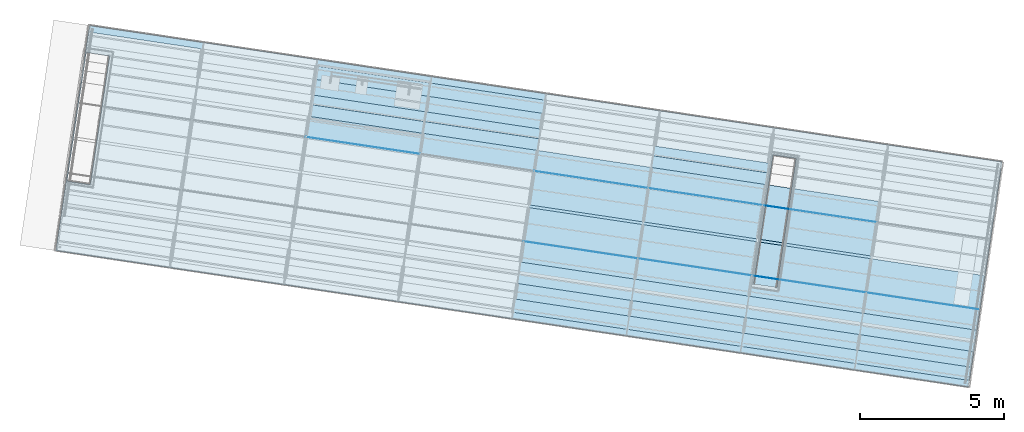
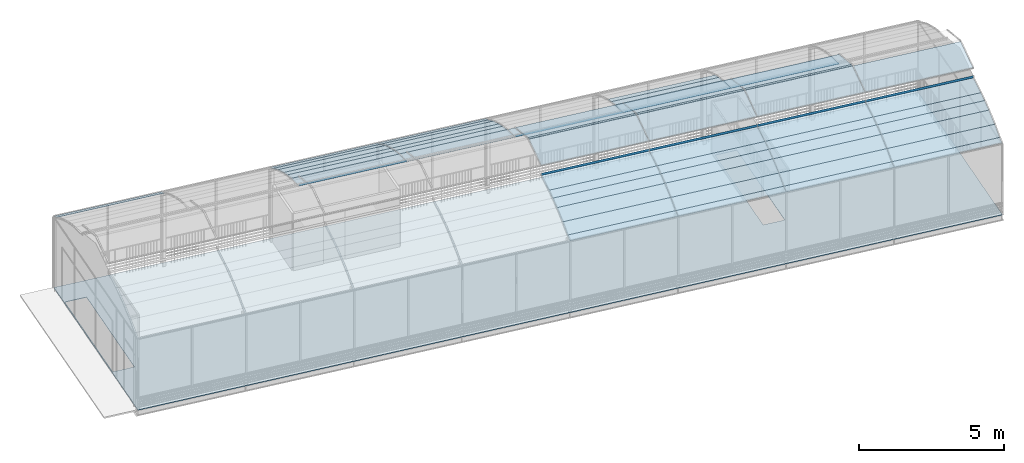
# One storey, part 26 of 34: 60 plates, 1 slab, 2 openings, 1 element without a shape of its own.
"""IFC4 building model written with IfcOpenShell, lengths in metres."""

from ifc_helpers import new_model, si_unit, direction, frame, origin_with_axes, place, context, subcontext, project, spatial, polyline, outline, extrude, material, element, aggregate, save


model = new_model("IFC4")

# Units and contexts
model_context = context("Model", 3, precision=1e-05, world=origin_with_axes(), true_north=direction((0.0, 1.0)))
body_context = subcontext(model_context, "Body", "Model", "MODEL_VIEW")
ifc_project = project(units=[si_unit("VOLUMEUNIT", "CUBIC_METRE"), si_unit("LENGTHUNIT", "METRE"), si_unit("AREAUNIT", "SQUARE_METRE")], contexts=[model_context])

# Site, building, storey
site_placement = place(None, origin_with_axes())
site = spatial("IfcSite", under=ifc_project, at=site_placement, Name="Lares · Rua das Mercês · artigo 4771")
building_placement = place(site_placement, frame((12.0, 10.2, 13.9), z_axis=(0.0, 0.0, 1.0), x_axis=(0.989015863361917, -0.147809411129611, 0.0)))
building = spatial("IfcBuilding", under=site, at=building_placement, Name="Casa Sobreposta")
storey_placement = place(building_placement, frame((0.0, 0.0, 3.24), z_axis=(0.0, 0.0, 1.0), x_axis=(1.0, 0.0, 0.0)))
storey = spatial("IfcBuildingStorey", under=building, at=storey_placement, Name="01 · Jardim de inverno", Elevation=17.14)

# Slab, openings
ifc_material_1 = material(Name="OSB", Category="wood")
slab_placement = place(storey_placement, frame((0.0, 0.0, -0.032), z_axis=(0.0, 0.0, 1.0), x_axis=(1.0, 0.0, 0.0)))
slab = element("IfcSlab", 1, at=slab_placement, inside=storey, material=ifc_material_1, Name="OSB estrutural · 20 mm", PredefinedType="FLOOR", context=body_context, shape_type="SweptSolid", body=[
    extrude(outline(polyline([(32.0, -1.5), (32.0, 6.4), (0.0, 6.4), (0.0, -1.5), (32.0, -1.5)])), origin_with_axes(), (0.0, 0.0, 1.0), 0.02),
])
opening_1_placement = place(slab_placement, frame((0.0, 0.0, -0.00999999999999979), z_axis=(0.0, 0.0, 1.0), x_axis=(1.0, 0.0, 0.0)))
element("IfcOpeningElement", 2, at=opening_1_placement, cuts=slab, Name="Vão de escada 1 · OSB estrutural · 20 mm", PredefinedType="OPENING", context=body_context, shape_type="SweptSolid", body=[
    extrude(outline(polyline([(0.04, 0.9475), (0.84, 0.9475), (0.84, 5.4525), (0.04, 5.4525), (0.04, 0.9475)])), origin_with_axes(), (0.0, 0.0, 1.0), 0.04),
])
opening_2_placement = place(slab_placement, frame((0.0, 0.0, -0.00999999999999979), z_axis=(0.0, 0.0, 1.0), x_axis=(1.0, 0.0, 0.0)))
element("IfcOpeningElement", 3, at=opening_2_placement, cuts=slab, Name="Vão de escada 2 · OSB estrutural · 20 mm", PredefinedType="OPENING", context=body_context, shape_type="SweptSolid", body=[
    extrude(outline(polyline([(24.91, 0.9475), (24.91, 5.4525), (24.11, 5.4525), (24.11, 0.9475), (24.91, 0.9475)])), origin_with_axes(), (0.0, 0.0, 1.0), 0.04),
])

# Roof, plates
ifc_material_2 = material(Name="Vidro / Normalglas", Category="glass")
roof_placement = place(storey_placement, frame((0.0, 0.0, -3.24), z_axis=(0.0, 0.0, 1.0), x_axis=(1.0, 0.0, 0.0)))
roof = element("IfcRoof", 4, at=roof_placement, inside=storey, material=ifc_material_2, Name="Cobertura translúcida da estufa", PredefinedType="BARREL_ROOF")
plate_1_placement = place(roof_placement, frame((16.0, 0.0, 0.0), z_axis=(1.0, 0.0, 0.0), x_axis=(0.0, 1.0, 0.0)))
plate_1 = element("IfcPlate", 5, at=plate_1_placement, material=ifc_material_2, Name="Cobertura 5.1", PredefinedType="SHEET", context=body_context, shape_type="SweptSolid", body=[
    extrude(outline(polyline([(-1.5, 6.23430000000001), (-1.26765509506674, 6.32392631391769), (-1.26765509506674, 6.31592631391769), (-1.5, 6.22630000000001), (-1.5, 6.23430000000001)])), origin_with_axes(), (0.0, 0.0, 1.0), 4.0),
])
plate_2_placement = place(roof_placement, frame((20.0, 0.0, 0.0), z_axis=(1.0, 0.0, 0.0), x_axis=(0.0, 1.0, 0.0)))
plate_2 = element("IfcPlate", 6, at=plate_2_placement, material=ifc_material_2, Name="Cobertura 6.1", PredefinedType="SHEET", context=body_context, shape_type="SweptSolid", body=[
    extrude(outline(polyline([(-1.5, 6.23430000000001), (-1.26765509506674, 6.32392631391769), (-1.26765509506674, 6.31592631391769), (-1.5, 6.22630000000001), (-1.5, 6.23430000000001)])), origin_with_axes(), (0.0, 0.0, 1.0), 4.0),
])
plate_3_placement = place(roof_placement, frame((24.0, 0.0, 0.0), z_axis=(1.0, 0.0, 0.0), x_axis=(0.0, 1.0, 0.0)))
plate_3 = element("IfcPlate", 7, at=plate_3_placement, material=ifc_material_2, Name="Cobertura 7.1", PredefinedType="SHEET", context=body_context, shape_type="SweptSolid", body=[
    extrude(outline(polyline([(-1.5, 6.23430000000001), (-1.26765509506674, 6.32392631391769), (-1.26765509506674, 6.31592631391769), (-1.5, 6.22630000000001), (-1.5, 6.23430000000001)])), origin_with_axes(), (0.0, 0.0, 1.0), 4.0),
])
plate_4_placement = place(roof_placement, frame((28.0, 0.0, 0.0), z_axis=(1.0, 0.0, 0.0), x_axis=(0.0, 1.0, 0.0)))
plate_4 = element("IfcPlate", 8, at=plate_4_placement, material=ifc_material_2, Name="Cobertura 8.1", PredefinedType="SHEET", context=body_context, shape_type="SweptSolid", body=[
    extrude(outline(polyline([(-1.5, 6.23430000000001), (-1.26765509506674, 6.32392631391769), (-1.26765509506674, 6.31592631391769), (-1.5, 6.22630000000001), (-1.5, 6.23430000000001)])), origin_with_axes(), (0.0, 0.0, 1.0), 4.0),
])
plate_5_placement = place(roof_placement, frame((16.0, 0.0, 0.0), z_axis=(1.0, 0.0, 0.0), x_axis=(0.0, 1.0, 0.0)))
plate_5 = element("IfcPlate", 9, at=plate_5_placement, material=ifc_material_2, Name="Cobertura 5.2", PredefinedType="SHEET", context=body_context, shape_type="SweptSolid", body=[
    extrude(outline(polyline([(-1.26765509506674, 6.32392631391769), (-0.803062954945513, 6.57613537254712), (-0.803062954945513, 6.56813537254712), (-1.26765509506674, 6.31592631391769), (-1.26765509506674, 6.32392631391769)])), origin_with_axes(), (0.0, 0.0, 1.0), 4.0),
])
plate_6_placement = place(roof_placement, frame((20.0, 0.0, 0.0), z_axis=(1.0, 0.0, 0.0), x_axis=(0.0, 1.0, 0.0)))
plate_6 = element("IfcPlate", 10, at=plate_6_placement, material=ifc_material_2, Name="Cobertura 6.2", PredefinedType="SHEET", context=body_context, shape_type="SweptSolid", body=[
    extrude(outline(polyline([(-1.26765509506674, 6.32392631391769), (-0.803062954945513, 6.57613537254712), (-0.803062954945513, 6.56813537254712), (-1.26765509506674, 6.31592631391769), (-1.26765509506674, 6.32392631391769)])), origin_with_axes(), (0.0, 0.0, 1.0), 4.0),
])
plate_7_placement = place(roof_placement, frame((24.0, 0.0, 0.0), z_axis=(1.0, 0.0, 0.0), x_axis=(0.0, 1.0, 0.0)))
plate_7 = element("IfcPlate", 11, at=plate_7_placement, material=ifc_material_2, Name="Cobertura 7.2", PredefinedType="SHEET", context=body_context, shape_type="SweptSolid", body=[
    extrude(outline(polyline([(-1.26765509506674, 6.32392631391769), (-0.803062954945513, 6.57613537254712), (-0.803062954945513, 6.56813537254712), (-1.26765509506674, 6.31592631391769), (-1.26765509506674, 6.32392631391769)])), origin_with_axes(), (0.0, 0.0, 1.0), 4.0),
])
plate_8_placement = place(roof_placement, frame((28.0, 0.0, 0.0), z_axis=(1.0, 0.0, 0.0), x_axis=(0.0, 1.0, 0.0)))
plate_8 = element("IfcPlate", 12, at=plate_8_placement, material=ifc_material_2, Name="Cobertura 8.2", PredefinedType="SHEET", context=body_context, shape_type="SweptSolid", body=[
    extrude(outline(polyline([(-1.26765509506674, 6.32392631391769), (-0.803062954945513, 6.57613537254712), (-0.803062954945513, 6.56813537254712), (-1.26765509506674, 6.31592631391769), (-1.26765509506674, 6.32392631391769)])), origin_with_axes(), (0.0, 0.0, 1.0), 4.0),
])
plate_9_placement = place(roof_placement, frame((16.0, 0.0, 0.0), z_axis=(1.0, 0.0, 0.0), x_axis=(0.0, 1.0, 0.0)))
plate_9 = element("IfcPlate", 13, at=plate_9_placement, material=ifc_material_2, Name="Cobertura 5.3", PredefinedType="SHEET", context=body_context, shape_type="SweptSolid", body=[
    extrude(outline(polyline([(-0.803062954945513, 6.57613537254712), (-0.256488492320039, 6.81570306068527), (-0.256488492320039, 6.80770306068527), (-0.803062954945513, 6.56813537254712), (-0.803062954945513, 6.57613537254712)])), origin_with_axes(), (0.0, 0.0, 1.0), 4.0),
])
plate_10_placement = place(roof_placement, frame((20.0, 0.0, 0.0), z_axis=(1.0, 0.0, 0.0), x_axis=(0.0, 1.0, 0.0)))
plate_10 = element("IfcPlate", 14, at=plate_10_placement, material=ifc_material_2, Name="Cobertura 6.3", PredefinedType="SHEET", context=body_context, shape_type="SweptSolid", body=[
    extrude(outline(polyline([(-0.803062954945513, 6.57613537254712), (-0.256488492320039, 6.81570306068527), (-0.256488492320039, 6.80770306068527), (-0.803062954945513, 6.56813537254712), (-0.803062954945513, 6.57613537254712)])), origin_with_axes(), (0.0, 0.0, 1.0), 4.0),
])
plate_11_placement = place(roof_placement, frame((24.0, 0.0, 0.0), z_axis=(1.0, 0.0, 0.0), x_axis=(0.0, 1.0, 0.0)))
plate_11 = element("IfcPlate", 15, at=plate_11_placement, material=ifc_material_2, Name="Cobertura 7.3", PredefinedType="SHEET", context=body_context, shape_type="SweptSolid", body=[
    extrude(outline(polyline([(-0.803062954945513, 6.57613537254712), (-0.256488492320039, 6.81570306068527), (-0.256488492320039, 6.80770306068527), (-0.803062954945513, 6.56813537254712), (-0.803062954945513, 6.57613537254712)])), origin_with_axes(), (0.0, 0.0, 1.0), 4.0),
])
plate_12_placement = place(roof_placement, frame((28.0, 0.0, 0.0), z_axis=(1.0, 0.0, 0.0), x_axis=(0.0, 1.0, 0.0)))
plate_12 = element("IfcPlate", 16, at=plate_12_placement, material=ifc_material_2, Name="Cobertura 8.3", PredefinedType="SHEET", context=body_context, shape_type="SweptSolid", body=[
    extrude(outline(polyline([(-0.803062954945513, 6.57613537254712), (-0.256488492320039, 6.81570306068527), (-0.256488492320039, 6.80770306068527), (-0.803062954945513, 6.56813537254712), (-0.803062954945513, 6.57613537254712)])), origin_with_axes(), (0.0, 0.0, 1.0), 4.0),
])
plate_13_placement = place(roof_placement, frame((16.0, 0.0, 0.0), z_axis=(1.0, 0.0, 0.0), x_axis=(0.0, 1.0, 0.0)))
plate_13 = element("IfcPlate", 17, at=plate_13_placement, material=ifc_material_2, Name="Cobertura 5.4", PredefinedType="SHEET", context=body_context, shape_type="SweptSolid", body=[
    extrude(outline(polyline([(-0.256488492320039, 6.81570306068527), (0.142348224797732, 6.95669813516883), (0.142348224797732, 6.94869813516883), (-0.256488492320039, 6.80770306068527), (-0.256488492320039, 6.81570306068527)])), origin_with_axes(), (0.0, 0.0, 1.0), 4.0),
])
plate_14_placement = place(roof_placement, frame((20.0, 0.0, 0.0), z_axis=(1.0, 0.0, 0.0), x_axis=(0.0, 1.0, 0.0)))
plate_14 = element("IfcPlate", 18, at=plate_14_placement, material=ifc_material_2, Name="Cobertura 6.4", PredefinedType="SHEET", context=body_context, shape_type="SweptSolid", body=[
    extrude(outline(polyline([(-0.256488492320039, 6.81570306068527), (0.142348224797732, 6.95669813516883), (0.142348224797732, 6.94869813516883), (-0.256488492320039, 6.80770306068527), (-0.256488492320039, 6.81570306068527)])), origin_with_axes(), (0.0, 0.0, 1.0), 4.0),
])
plate_15_placement = place(roof_placement, frame((24.0, 0.0, 0.0), z_axis=(1.0, 0.0, 0.0), x_axis=(0.0, 1.0, 0.0)))
plate_15 = element("IfcPlate", 19, at=plate_15_placement, material=ifc_material_2, Name="Cobertura 7.4", PredefinedType="SHEET", context=body_context, shape_type="SweptSolid", body=[
    extrude(outline(polyline([(-0.256488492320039, 6.81570306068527), (0.142348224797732, 6.95669813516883), (0.142348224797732, 6.94869813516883), (-0.256488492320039, 6.80770306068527), (-0.256488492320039, 6.81570306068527)])), origin_with_axes(), (0.0, 0.0, 1.0), 4.0),
])
plate_16_placement = place(roof_placement, frame((28.0, 0.0, 0.0), z_axis=(1.0, 0.0, 0.0), x_axis=(0.0, 1.0, 0.0)))
plate_16 = element("IfcPlate", 20, at=plate_16_placement, material=ifc_material_2, Name="Cobertura 8.4", PredefinedType="SHEET", context=body_context, shape_type="SweptSolid", body=[
    extrude(outline(polyline([(-0.256488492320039, 6.81570306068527), (0.142348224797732, 6.95669813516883), (0.142348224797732, 6.94869813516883), (-0.256488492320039, 6.80770306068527), (-0.256488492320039, 6.81570306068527)])), origin_with_axes(), (0.0, 0.0, 1.0), 4.0),
])
plate_17_placement = place(roof_placement, frame((16.0, 0.0, 0.0), z_axis=(1.0, 0.0, 0.0), x_axis=(0.0, 1.0, 0.0)))
plate_17 = element("IfcPlate", 21, at=plate_17_placement, material=ifc_material_2, Name="Cobertura 5.5", PredefinedType="SHEET", context=body_context, shape_type="SweptSolid", body=[
    extrude(outline(polyline([(0.142348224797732, 6.95669813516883), (0.493171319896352, 7.05943931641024), (0.493171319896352, 7.05143931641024), (0.142348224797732, 6.94869813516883), (0.142348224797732, 6.95669813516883)])), origin_with_axes(), (0.0, 0.0, 1.0), 4.0),
])
plate_18_placement = place(roof_placement, frame((20.0, 0.0, 0.0), z_axis=(1.0, 0.0, 0.0), x_axis=(0.0, 1.0, 0.0)))
plate_18 = element("IfcPlate", 22, at=plate_18_placement, material=ifc_material_2, Name="Cobertura 6.5", PredefinedType="SHEET", context=body_context, shape_type="SweptSolid", body=[
    extrude(outline(polyline([(0.142348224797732, 6.95669813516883), (0.493171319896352, 7.05943931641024), (0.493171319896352, 7.05143931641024), (0.142348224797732, 6.94869813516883), (0.142348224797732, 6.95669813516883)])), origin_with_axes(), (0.0, 0.0, 1.0), 4.0),
])
plate_19_placement = place(roof_placement, frame((24.0, 0.0, 0.0), z_axis=(1.0, 0.0, 0.0), x_axis=(0.0, 1.0, 0.0)))
plate_19 = element("IfcPlate", 23, at=plate_19_placement, material=ifc_material_2, Name="Cobertura 7.5", PredefinedType="SHEET", context=body_context, shape_type="SweptSolid", body=[
    extrude(outline(polyline([(0.142348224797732, 6.95669813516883), (0.493171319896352, 7.05943931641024), (0.493171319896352, 7.05143931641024), (0.142348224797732, 6.94869813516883), (0.142348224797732, 6.95669813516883)])), origin_with_axes(), (0.0, 0.0, 1.0), 4.0),
])
plate_20_placement = place(roof_placement, frame((28.0, 0.0, 0.0), z_axis=(1.0, 0.0, 0.0), x_axis=(0.0, 1.0, 0.0)))
plate_20 = element("IfcPlate", 24, at=plate_20_placement, material=ifc_material_2, Name="Cobertura 8.5", PredefinedType="SHEET", context=body_context, shape_type="SweptSolid", body=[
    extrude(outline(polyline([(0.142348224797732, 6.95669813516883), (0.493171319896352, 7.05943931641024), (0.493171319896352, 7.05143931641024), (0.142348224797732, 6.94869813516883), (0.142348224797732, 6.95669813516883)])), origin_with_axes(), (0.0, 0.0, 1.0), 4.0),
])
plate_21_placement = place(roof_placement, frame((16.0, 0.0, 0.0), z_axis=(1.0, 0.0, 0.0), x_axis=(0.0, 1.0, 0.0)))
plate_21 = element("IfcPlate", 25, at=plate_21_placement, material=ifc_material_2, Name="Cobertura 5.6", PredefinedType="SHEET", context=body_context, shape_type="SweptSolid", body=[
    extrude(outline(polyline([(0.493171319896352, 7.05943931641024), (1.21440957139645, 7.21329402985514), (1.21440957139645, 7.20529402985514), (0.493171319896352, 7.05143931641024), (0.493171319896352, 7.05943931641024)])), origin_with_axes(), (0.0, 0.0, 1.0), 4.0),
])
plate_22_placement = place(roof_placement, frame((20.0, 0.0, 0.0), z_axis=(1.0, 0.0, 0.0), x_axis=(0.0, 1.0, 0.0)))
plate_22 = element("IfcPlate", 26, at=plate_22_placement, material=ifc_material_2, Name="Cobertura 6.6", PredefinedType="SHEET", context=body_context, shape_type="SweptSolid", body=[
    extrude(outline(polyline([(0.493171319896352, 7.05943931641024), (1.21440957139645, 7.21329402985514), (1.21440957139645, 7.20529402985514), (0.493171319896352, 7.05143931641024), (0.493171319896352, 7.05943931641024)])), origin_with_axes(), (0.0, 0.0, 1.0), 4.0),
])
plate_23_placement = place(roof_placement, frame((24.0, 0.0, 0.0), z_axis=(1.0, 0.0, 0.0), x_axis=(0.0, 1.0, 0.0)))
plate_23 = element("IfcPlate", 27, at=plate_23_placement, material=ifc_material_2, Name="Cobertura 7.6", PredefinedType="SHEET", context=body_context, shape_type="SweptSolid", body=[
    extrude(outline(polyline([(0.493171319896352, 7.05943931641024), (1.21440957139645, 7.21329402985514), (1.21440957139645, 7.20529402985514), (0.493171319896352, 7.05143931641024), (0.493171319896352, 7.05943931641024)])), origin_with_axes(), (0.0, 0.0, 1.0), 4.0),
])
plate_24_placement = place(roof_placement, frame((28.0, 0.0, 0.0), z_axis=(1.0, 0.0, 0.0), x_axis=(0.0, 1.0, 0.0)))
plate_24 = element("IfcPlate", 28, at=plate_24_placement, material=ifc_material_2, Name="Cobertura 8.6", PredefinedType="SHEET", context=body_context, shape_type="SweptSolid", body=[
    extrude(outline(polyline([(0.493171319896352, 7.05943931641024), (1.21440957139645, 7.21329402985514), (1.21440957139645, 7.20529402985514), (0.493171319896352, 7.05143931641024), (0.493171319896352, 7.05943931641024)])), origin_with_axes(), (0.0, 0.0, 1.0), 4.0),
])
plate_25_placement = place(roof_placement, frame((16.0, 0.0, 0.0), z_axis=(1.0, 0.0, 0.0), x_axis=(0.0, 1.0, 0.0)))
plate_25 = element("IfcPlate", 29, at=plate_25_placement, material=ifc_material_2, Name="Cobertura 5.7", PredefinedType="SHEET", context=body_context, shape_type="SweptSolid", body=[
    extrude(outline(polyline([(1.21440957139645, 7.21329402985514), (1.22042020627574, 7.30067689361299), (1.22042020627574, 7.29267689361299), (1.21440957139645, 7.20529402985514), (1.21440957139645, 7.21329402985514)])), origin_with_axes(), (0.0, 0.0, 1.0), 4.0),
])
plate_26_placement = place(roof_placement, frame((20.0, 0.0, 0.0), z_axis=(1.0, 0.0, 0.0), x_axis=(0.0, 1.0, 0.0)))
plate_26 = element("IfcPlate", 30, at=plate_26_placement, material=ifc_material_2, Name="Cobertura 6.7", PredefinedType="SHEET", context=body_context, shape_type="SweptSolid", body=[
    extrude(outline(polyline([(1.21440957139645, 7.21329402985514), (1.22042020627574, 7.30067689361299), (1.22042020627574, 7.29267689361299), (1.21440957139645, 7.20529402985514), (1.21440957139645, 7.21329402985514)])), origin_with_axes(), (0.0, 0.0, 1.0), 4.0),
])
plate_27_placement = place(roof_placement, frame((24.0, 0.0, 0.0), z_axis=(1.0, 0.0, 0.0), x_axis=(0.0, 1.0, 0.0)))
plate_27 = element("IfcPlate", 31, at=plate_27_placement, material=ifc_material_2, Name="Cobertura 7.7", PredefinedType="SHEET", context=body_context, shape_type="SweptSolid", body=[
    extrude(outline(polyline([(1.21440957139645, 7.21329402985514), (1.22042020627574, 7.30067689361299), (1.22042020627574, 7.29267689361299), (1.21440957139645, 7.20529402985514), (1.21440957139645, 7.21329402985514)])), origin_with_axes(), (0.0, 0.0, 1.0), 4.0),
])
plate_28_placement = place(roof_placement, frame((28.0, 0.0, 0.0), z_axis=(1.0, 0.0, 0.0), x_axis=(0.0, 1.0, 0.0)))
plate_28 = element("IfcPlate", 32, at=plate_28_placement, material=ifc_material_2, Name="Cobertura 8.7", PredefinedType="SHEET", context=body_context, shape_type="SweptSolid", body=[
    extrude(outline(polyline([(1.21440957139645, 7.21329402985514), (1.22042020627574, 7.30067689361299), (1.22042020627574, 7.29267689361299), (1.21440957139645, 7.20529402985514), (1.21440957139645, 7.21329402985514)])), origin_with_axes(), (0.0, 0.0, 1.0), 4.0),
])
plate_29_placement = place(roof_placement, frame((16.0, 0.0, 0.0), z_axis=(1.0, 0.0, 0.0), x_axis=(0.0, 1.0, 0.0)))
plate_29 = element("IfcPlate", 33, at=plate_29_placement, material=ifc_material_2, Name="Cobertura 5.8", PredefinedType="SHEET", context=body_context, shape_type="SweptSolid", body=[
    extrude(outline(polyline([(1.22042020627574, 7.62067689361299), (2.40274082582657, 7.96518238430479), (2.40274082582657, 7.95718238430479), (1.22042020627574, 7.61267689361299), (1.22042020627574, 7.62067689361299)])), origin_with_axes(), (0.0, 0.0, 1.0), 4.0),
])
plate_30_placement = place(roof_placement, frame((20.0, 0.0, 0.0), z_axis=(1.0, 0.0, 0.0), x_axis=(0.0, 1.0, 0.0)))
plate_30 = element("IfcPlate", 34, at=plate_30_placement, material=ifc_material_2, Name="Cobertura 6.8", PredefinedType="SHEET", context=body_context, shape_type="SweptSolid", body=[
    extrude(outline(polyline([(1.22042020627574, 7.62067689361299), (2.40274082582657, 7.96518238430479), (2.40274082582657, 7.95718238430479), (1.22042020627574, 7.61267689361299), (1.22042020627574, 7.62067689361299)])), origin_with_axes(), (0.0, 0.0, 1.0), 4.0),
])
plate_31_placement = place(roof_placement, frame((24.0, 0.0, 0.0), z_axis=(1.0, 0.0, 0.0), x_axis=(0.0, 1.0, 0.0)))
plate_31 = element("IfcPlate", 35, at=plate_31_placement, material=ifc_material_2, Name="Cobertura 7.8", PredefinedType="SHEET", context=body_context, shape_type="SweptSolid", body=[
    extrude(outline(polyline([(1.22042020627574, 7.62067689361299), (2.40274082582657, 7.96518238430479), (2.40274082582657, 7.95718238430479), (1.22042020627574, 7.61267689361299), (1.22042020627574, 7.62067689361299)])), origin_with_axes(), (0.0, 0.0, 1.0), 4.0),
])
plate_32_placement = place(roof_placement, frame((28.0, 0.0, 0.0), z_axis=(1.0, 0.0, 0.0), x_axis=(0.0, 1.0, 0.0)))
plate_32 = element("IfcPlate", 36, at=plate_32_placement, material=ifc_material_2, Name="Cobertura 8.8", PredefinedType="SHEET", context=body_context, shape_type="SweptSolid", body=[
    extrude(outline(polyline([(1.22042020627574, 7.62067689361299), (2.40274082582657, 7.96518238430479), (2.40274082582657, 7.95718238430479), (1.22042020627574, 7.61267689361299), (1.22042020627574, 7.62067689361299)])), origin_with_axes(), (0.0, 0.0, 1.0), 4.0),
])
plate_33_placement = place(roof_placement, frame((16.0, 0.0, 0.0), z_axis=(1.0, 0.0, 0.0), x_axis=(0.0, 1.0, 0.0)))
plate_33 = element("IfcPlate", 37, at=plate_33_placement, material=ifc_material_2, Name="Cobertura 5.9", PredefinedType="SHEET", context=body_context, shape_type="SweptSolid", body=[
    extrude(outline(polyline([(2.40274082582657, 7.96518238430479), (2.49770027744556, 7.96518238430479), (2.49770027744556, 7.95718238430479), (2.40274082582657, 7.95718238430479), (2.40274082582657, 7.96518238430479)])), origin_with_axes(), (0.0, 0.0, 1.0), 4.0),
])
plate_34_placement = place(roof_placement, frame((20.0, 0.0, 0.0), z_axis=(1.0, 0.0, 0.0), x_axis=(0.0, 1.0, 0.0)))
plate_34 = element("IfcPlate", 38, at=plate_34_placement, material=ifc_material_2, Name="Cobertura 6.9", PredefinedType="SHEET", context=body_context, shape_type="SweptSolid", body=[
    extrude(outline(polyline([(2.40274082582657, 7.96518238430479), (2.49770027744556, 7.96518238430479), (2.49770027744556, 7.95718238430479), (2.40274082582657, 7.95718238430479), (2.40274082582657, 7.96518238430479)])), origin_with_axes(), (0.0, 0.0, 1.0), 4.0),
])
plate_35_placement = place(roof_placement, frame((24.0, 0.0, 0.0), z_axis=(1.0, 0.0, 0.0), x_axis=(0.0, 1.0, 0.0)))
plate_35 = element("IfcPlate", 39, at=plate_35_placement, material=ifc_material_2, Name="Cobertura 7.9", PredefinedType="SHEET", context=body_context, shape_type="SweptSolid", body=[
    extrude(outline(polyline([(2.40274082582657, 7.96518238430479), (2.49770027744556, 7.96518238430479), (2.49770027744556, 7.95718238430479), (2.40274082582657, 7.95718238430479), (2.40274082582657, 7.96518238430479)])), origin_with_axes(), (0.0, 0.0, 1.0), 4.0),
])
plate_36_placement = place(roof_placement, frame((16.0, 0.0, 0.0), z_axis=(1.0, 0.0, 0.0), x_axis=(0.0, 1.0, 0.0)))
plate_36 = element("IfcPlate", 40, at=plate_36_placement, material=ifc_material_2, Name="Cobertura 5.10", PredefinedType="SHEET", context=body_context, shape_type="SweptSolid", body=[
    extrude(outline(polyline([(2.49770027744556, 7.96518238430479), (3.68002089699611, 7.62067689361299), (3.68002089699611, 7.61267689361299), (2.49770027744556, 7.95718238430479), (2.49770027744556, 7.96518238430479)])), origin_with_axes(), (0.0, 0.0, 1.0), 4.0),
])
plate_37_placement = place(roof_placement, frame((20.0, 0.0, 0.0), z_axis=(1.0, 0.0, 0.0), x_axis=(0.0, 1.0, 0.0)))
plate_37 = element("IfcPlate", 41, at=plate_37_placement, material=ifc_material_2, Name="Cobertura 6.10", PredefinedType="SHEET", context=body_context, shape_type="SweptSolid", body=[
    extrude(outline(polyline([(2.49770027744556, 7.96518238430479), (3.68002089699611, 7.62067689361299), (3.68002089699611, 7.61267689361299), (2.49770027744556, 7.95718238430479), (2.49770027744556, 7.96518238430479)])), origin_with_axes(), (0.0, 0.0, 1.0), 4.0),
])
plate_38_placement = place(roof_placement, frame((24.0, 0.0, 0.0), z_axis=(1.0, 0.0, 0.0), x_axis=(0.0, 1.0, 0.0)))
plate_38 = element("IfcPlate", 42, at=plate_38_placement, material=ifc_material_2, Name="Cobertura 7.10", PredefinedType="SHEET", context=body_context, shape_type="SweptSolid", body=[
    extrude(outline(polyline([(2.49770027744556, 7.96518238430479), (3.68002089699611, 7.62067689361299), (3.68002089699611, 7.61267689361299), (2.49770027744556, 7.95718238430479), (2.49770027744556, 7.96518238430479)])), origin_with_axes(), (0.0, 0.0, 1.0), 4.0),
])
plate_39_placement = place(roof_placement, frame((8.0, 0.0, 0.0), z_axis=(1.0, 0.0, 0.0), x_axis=(0.0, 1.0, 0.0)))
plate_39 = element("IfcPlate", 43, at=plate_39_placement, material=ifc_material_2, Name="Cobertura 3.11", PredefinedType="SHEET", context=body_context, shape_type="SweptSolid", body=[
    extrude(outline(polyline([(3.68002089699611, 7.30067689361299), (3.68573096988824, 7.21327919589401), (3.68573096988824, 7.20527919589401), (3.68002089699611, 7.29267689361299), (3.68002089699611, 7.30067689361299)])), origin_with_axes(), (0.0, 0.0, 1.0), 4.0),
])
plate_40_placement = place(roof_placement, frame((16.0, 0.0, 0.0), z_axis=(1.0, 0.0, 0.0), x_axis=(0.0, 1.0, 0.0)))
plate_40 = element("IfcPlate", 44, at=plate_40_placement, material=ifc_material_2, Name="Cobertura 5.11", PredefinedType="SHEET", context=body_context, shape_type="SweptSolid", body=[
    extrude(outline(polyline([(3.68002089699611, 7.30067689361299), (3.68573096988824, 7.21327919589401), (3.68573096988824, 7.20527919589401), (3.68002089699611, 7.29267689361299), (3.68002089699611, 7.30067689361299)])), origin_with_axes(), (0.0, 0.0, 1.0), 4.0),
])
plate_41_placement = place(roof_placement, frame((20.0, 0.0, 0.0), z_axis=(1.0, 0.0, 0.0), x_axis=(0.0, 1.0, 0.0)))
plate_41 = element("IfcPlate", 45, at=plate_41_placement, material=ifc_material_2, Name="Cobertura 6.11", PredefinedType="SHEET", context=body_context, shape_type="SweptSolid", body=[
    extrude(outline(polyline([(3.68002089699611, 7.30067689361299), (3.68573096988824, 7.21327919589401), (3.68573096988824, 7.20527919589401), (3.68002089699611, 7.29267689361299), (3.68002089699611, 7.30067689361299)])), origin_with_axes(), (0.0, 0.0, 1.0), 4.0),
])
plate_42_placement = place(roof_placement, frame((24.0, 0.0, 0.0), z_axis=(1.0, 0.0, 0.0), x_axis=(0.0, 1.0, 0.0)))
plate_42 = element("IfcPlate", 46, at=plate_42_placement, material=ifc_material_2, Name="Cobertura 7.11", PredefinedType="SHEET", context=body_context, shape_type="SweptSolid", body=[
    extrude(outline(polyline([(3.68002089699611, 7.30067689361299), (3.68573096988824, 7.21327919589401), (3.68573096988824, 7.20527919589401), (3.68002089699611, 7.29267689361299), (3.68002089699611, 7.30067689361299)])), origin_with_axes(), (0.0, 0.0, 1.0), 4.0),
])
plate_43_placement = place(roof_placement, frame((8.0, 0.0, 0.0), z_axis=(1.0, 0.0, 0.0), x_axis=(0.0, 1.0, 0.0)))
plate_43 = element("IfcPlate", 47, at=plate_43_placement, material=ifc_material_2, Name="Cobertura 3.12", PredefinedType="SHEET", context=body_context, shape_type="SweptSolid", body=[
    extrude(outline(polyline([(3.68573096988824, 7.21327919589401), (4.40690649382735, 7.05944154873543), (4.40690649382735, 7.05144154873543), (3.68573096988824, 7.20527919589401), (3.68573096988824, 7.21327919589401)])), origin_with_axes(), (0.0, 0.0, 1.0), 4.0),
])
plate_44_placement = place(roof_placement, frame((12.0, 0.0, 0.0), z_axis=(1.0, 0.0, 0.0), x_axis=(0.0, 1.0, 0.0)))
plate_44 = element("IfcPlate", 48, at=plate_44_placement, material=ifc_material_2, Name="Cobertura 4.12", PredefinedType="SHEET", context=body_context, shape_type="SweptSolid", body=[
    extrude(outline(polyline([(3.68573096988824, 7.21327919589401), (4.40690649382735, 7.05944154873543), (4.40690649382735, 7.05144154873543), (3.68573096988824, 7.20527919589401), (3.68573096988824, 7.21327919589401)])), origin_with_axes(), (0.0, 0.0, 1.0), 4.0),
])
plate_45_placement = place(roof_placement, frame((16.0, 0.0, 0.0), z_axis=(1.0, 0.0, 0.0), x_axis=(0.0, 1.0, 0.0)))
plate_45 = element("IfcPlate", 49, at=plate_45_placement, material=ifc_material_2, Name="Cobertura 5.12", PredefinedType="SHEET", context=body_context, shape_type="SweptSolid", body=[
    extrude(outline(polyline([(3.68573096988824, 7.21327919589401), (4.40690649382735, 7.05944154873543), (4.40690649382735, 7.05144154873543), (3.68573096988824, 7.20527919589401), (3.68573096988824, 7.21327919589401)])), origin_with_axes(), (0.0, 0.0, 1.0), 4.0),
])
plate_46_placement = place(roof_placement, frame((20.0, 0.0, 0.0), z_axis=(1.0, 0.0, 0.0), x_axis=(0.0, 1.0, 0.0)))
plate_46 = element("IfcPlate", 50, at=plate_46_placement, material=ifc_material_2, Name="Cobertura 6.12", PredefinedType="SHEET", context=body_context, shape_type="SweptSolid", body=[
    extrude(outline(polyline([(3.68573096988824, 7.21327919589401), (4.40690649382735, 7.05944154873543), (4.40690649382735, 7.05144154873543), (3.68573096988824, 7.20527919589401), (3.68573096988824, 7.21327919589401)])), origin_with_axes(), (0.0, 0.0, 1.0), 4.0),
])
plate_47_placement = place(roof_placement, frame((24.0, 0.0, 0.0), z_axis=(1.0, 0.0, 0.0), x_axis=(0.0, 1.0, 0.0)))
plate_47 = element("IfcPlate", 51, at=plate_47_placement, material=ifc_material_2, Name="Cobertura 7.12", PredefinedType="SHEET", context=body_context, shape_type="SweptSolid", body=[
    extrude(outline(polyline([(3.68573096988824, 7.21327919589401), (4.40690649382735, 7.05944154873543), (4.40690649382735, 7.05144154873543), (3.68573096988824, 7.20527919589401), (3.68573096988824, 7.21327919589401)])), origin_with_axes(), (0.0, 0.0, 1.0), 4.0),
])
plate_48_placement = place(roof_placement, frame((8.0, 0.0, 0.0), z_axis=(1.0, 0.0, 0.0), x_axis=(0.0, 1.0, 0.0)))
plate_48 = element("IfcPlate", 52, at=plate_48_placement, material=ifc_material_2, Name="Cobertura 3.13", PredefinedType="SHEET", context=body_context, shape_type="SweptSolid", body=[
    extrude(outline(polyline([(4.40690649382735, 7.05944154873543), (4.81540166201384, 6.93795392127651), (4.81540166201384, 6.92995392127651), (4.40690649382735, 7.05144154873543), (4.40690649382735, 7.05944154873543)])), origin_with_axes(), (0.0, 0.0, 1.0), 4.0),
])
plate_49_placement = place(roof_placement, frame((12.0, 0.0, 0.0), z_axis=(1.0, 0.0, 0.0), x_axis=(0.0, 1.0, 0.0)))
plate_49 = element("IfcPlate", 53, at=plate_49_placement, material=ifc_material_2, Name="Cobertura 4.13", PredefinedType="SHEET", context=body_context, shape_type="SweptSolid", body=[
    extrude(outline(polyline([(4.40690649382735, 7.05944154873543), (4.81540166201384, 6.93795392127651), (4.81540166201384, 6.92995392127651), (4.40690649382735, 7.05144154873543), (4.40690649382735, 7.05944154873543)])), origin_with_axes(), (0.0, 0.0, 1.0), 4.0),
])
plate_50_placement = place(roof_placement, frame((20.0, 0.0, 0.0), z_axis=(1.0, 0.0, 0.0), x_axis=(0.0, 1.0, 0.0)))
plate_50 = element("IfcPlate", 54, at=plate_50_placement, material=ifc_material_2, Name="Cobertura 6.13", PredefinedType="SHEET", context=body_context, shape_type="SweptSolid", body=[
    extrude(outline(polyline([(4.40690649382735, 7.05944154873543), (4.81540166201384, 6.93795392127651), (4.81540166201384, 6.92995392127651), (4.40690649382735, 7.05144154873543), (4.40690649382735, 7.05944154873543)])), origin_with_axes(), (0.0, 0.0, 1.0), 4.0),
])
plate_51_placement = place(roof_placement, frame((8.0, 0.0, 0.0), z_axis=(1.0, 0.0, 0.0), x_axis=(0.0, 1.0, 0.0)))
plate_51 = element("IfcPlate", 55, at=plate_51_placement, material=ifc_material_2, Name="Cobertura 3.14", PredefinedType="SHEET", context=body_context, shape_type="SweptSolid", body=[
    extrude(outline(polyline([(4.81540166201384, 6.93795392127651), (5.15650506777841, 6.8157371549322), (5.15650506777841, 6.8077371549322), (4.81540166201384, 6.92995392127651), (4.81540166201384, 6.93795392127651)])), origin_with_axes(), (0.0, 0.0, 1.0), 4.0),
])
plate_52_placement = place(roof_placement, frame((12.0, 0.0, 0.0), z_axis=(1.0, 0.0, 0.0), x_axis=(0.0, 1.0, 0.0)))
plate_52 = element("IfcPlate", 56, at=plate_52_placement, material=ifc_material_2, Name="Cobertura 4.14", PredefinedType="SHEET", context=body_context, shape_type="SweptSolid", body=[
    extrude(outline(polyline([(4.81540166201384, 6.93795392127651), (5.15650506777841, 6.8157371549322), (5.15650506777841, 6.8077371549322), (4.81540166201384, 6.92995392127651), (4.81540166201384, 6.93795392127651)])), origin_with_axes(), (0.0, 0.0, 1.0), 4.0),
])
plate_53_placement = place(roof_placement, frame((20.0, 0.0, 0.0), z_axis=(1.0, 0.0, 0.0), x_axis=(0.0, 1.0, 0.0)))
plate_53 = element("IfcPlate", 57, at=plate_53_placement, material=ifc_material_2, Name="Cobertura 6.14", PredefinedType="SHEET", context=body_context, shape_type="SweptSolid", body=[
    extrude(outline(polyline([(4.81540166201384, 6.93795392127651), (5.15650506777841, 6.8157371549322), (5.15650506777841, 6.8077371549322), (4.81540166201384, 6.92995392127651), (4.81540166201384, 6.93795392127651)])), origin_with_axes(), (0.0, 0.0, 1.0), 4.0),
])
plate_54_placement = place(roof_placement, frame((8.0, 0.0, 0.0), z_axis=(1.0, 0.0, 0.0), x_axis=(0.0, 1.0, 0.0)))
plate_54 = element("IfcPlate", 58, at=plate_54_placement, material=ifc_material_2, Name="Cobertura 3.15", PredefinedType="SHEET", context=body_context, shape_type="SweptSolid", body=[
    extrude(outline(polyline([(5.15650506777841, 6.8157371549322), (5.70303916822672, 6.57620268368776), (5.70303916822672, 6.56820268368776), (5.15650506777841, 6.8077371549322), (5.15650506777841, 6.8157371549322)])), origin_with_axes(), (0.0, 0.0, 1.0), 4.0),
])
plate_55_placement = place(roof_placement, frame((12.0, 0.0, 0.0), z_axis=(1.0, 0.0, 0.0), x_axis=(0.0, 1.0, 0.0)))
plate_55 = element("IfcPlate", 59, at=plate_55_placement, material=ifc_material_2, Name="Cobertura 4.15", PredefinedType="SHEET", context=body_context, shape_type="SweptSolid", body=[
    extrude(outline(polyline([(5.15650506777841, 6.8157371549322), (5.70303916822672, 6.57620268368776), (5.70303916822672, 6.56820268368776), (5.15650506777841, 6.8077371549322), (5.15650506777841, 6.8157371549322)])), origin_with_axes(), (0.0, 0.0, 1.0), 4.0),
])
plate_56_placement = place(roof_placement, frame((8.0, 0.0, 0.0), z_axis=(1.0, 0.0, 0.0), x_axis=(0.0, 1.0, 0.0)))
plate_56 = element("IfcPlate", 60, at=plate_56_placement, material=ifc_material_2, Name="Cobertura 3.16", PredefinedType="SHEET", context=body_context, shape_type="SweptSolid", body=[
    extrude(outline(polyline([(5.70303916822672, 6.57620268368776), (6.16760124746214, 6.3240293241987), (6.16760124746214, 6.3160293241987), (5.70303916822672, 6.56820268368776), (5.70303916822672, 6.57620268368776)])), origin_with_axes(), (0.0, 0.0, 1.0), 4.0),
])
plate_57_placement = place(roof_placement, frame((12.0, 0.0, 0.0), z_axis=(1.0, 0.0, 0.0), x_axis=(0.0, 1.0, 0.0)))
plate_57 = element("IfcPlate", 61, at=plate_57_placement, material=ifc_material_2, Name="Cobertura 4.16", PredefinedType="SHEET", context=body_context, shape_type="SweptSolid", body=[
    extrude(outline(polyline([(5.70303916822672, 6.57620268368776), (6.16760124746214, 6.3240293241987), (6.16760124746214, 6.3160293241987), (5.70303916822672, 6.56820268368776), (5.70303916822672, 6.57620268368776)])), origin_with_axes(), (0.0, 0.0, 1.0), 4.0),
])
plate_58_placement = place(roof_placement, frame((0.0, 0.0, 0.0), z_axis=(1.0, 0.0, 0.0), x_axis=(0.0, 1.0, 0.0)))
plate_58 = element("IfcPlate", 62, at=plate_58_placement, material=ifc_material_2, Name="Cobertura 1.17", PredefinedType="SHEET", context=body_context, shape_type="SweptSolid", body=[
    extrude(outline(polyline([(6.16760124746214, 6.3240293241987), (6.39999999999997, 6.23430000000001), (6.39999999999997, 6.22630000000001), (6.16760124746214, 6.3160293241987), (6.16760124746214, 6.3240293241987)])), origin_with_axes(), (0.0, 0.0, 1.0), 4.0),
])
plate_59_placement = place(roof_placement, frame((8.0, 0.0, 0.0), z_axis=(1.0, 0.0, 0.0), x_axis=(0.0, 1.0, 0.0)))
plate_59 = element("IfcPlate", 63, at=plate_59_placement, material=ifc_material_2, Name="Cobertura 3.17", PredefinedType="SHEET", context=body_context, shape_type="SweptSolid", body=[
    extrude(outline(polyline([(6.16760124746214, 6.3240293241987), (6.39999999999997, 6.23430000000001), (6.39999999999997, 6.22630000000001), (6.16760124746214, 6.3160293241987), (6.16760124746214, 6.3240293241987)])), origin_with_axes(), (0.0, 0.0, 1.0), 4.0),
])
plate_60_placement = place(roof_placement, frame((12.0, 0.0, 0.0), z_axis=(1.0, 0.0, 0.0), x_axis=(0.0, 1.0, 0.0)))
plate_60 = element("IfcPlate", 64, at=plate_60_placement, material=ifc_material_2, Name="Cobertura 4.17", PredefinedType="SHEET", context=body_context, shape_type="SweptSolid", body=[
    extrude(outline(polyline([(6.16760124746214, 6.3240293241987), (6.39999999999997, 6.23430000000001), (6.39999999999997, 6.22630000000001), (6.16760124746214, 6.3160293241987), (6.16760124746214, 6.3240293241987)])), origin_with_axes(), (0.0, 0.0, 1.0), 4.0),
])
aggregate(roof, [plate_1, plate_2, plate_3, plate_4, plate_5, plate_6, plate_7, plate_8, plate_9, plate_10, plate_11, plate_12, plate_13, plate_14, plate_15, plate_16, plate_17, plate_18, plate_19, plate_20, plate_21, plate_22, plate_23, plate_24, plate_25, plate_26, plate_27, plate_28, plate_29, plate_30, plate_31, plate_32, plate_33, plate_34, plate_35, plate_36, plate_37, plate_38, plate_39, plate_40, plate_41, plate_42, plate_43, plate_44, plate_45, plate_46, plate_47, plate_48, plate_49, plate_50, plate_51, plate_52, plate_53, plate_54, plate_55, plate_56, plate_57, plate_58, plate_59, plate_60])

save(model, "model.ifc")
